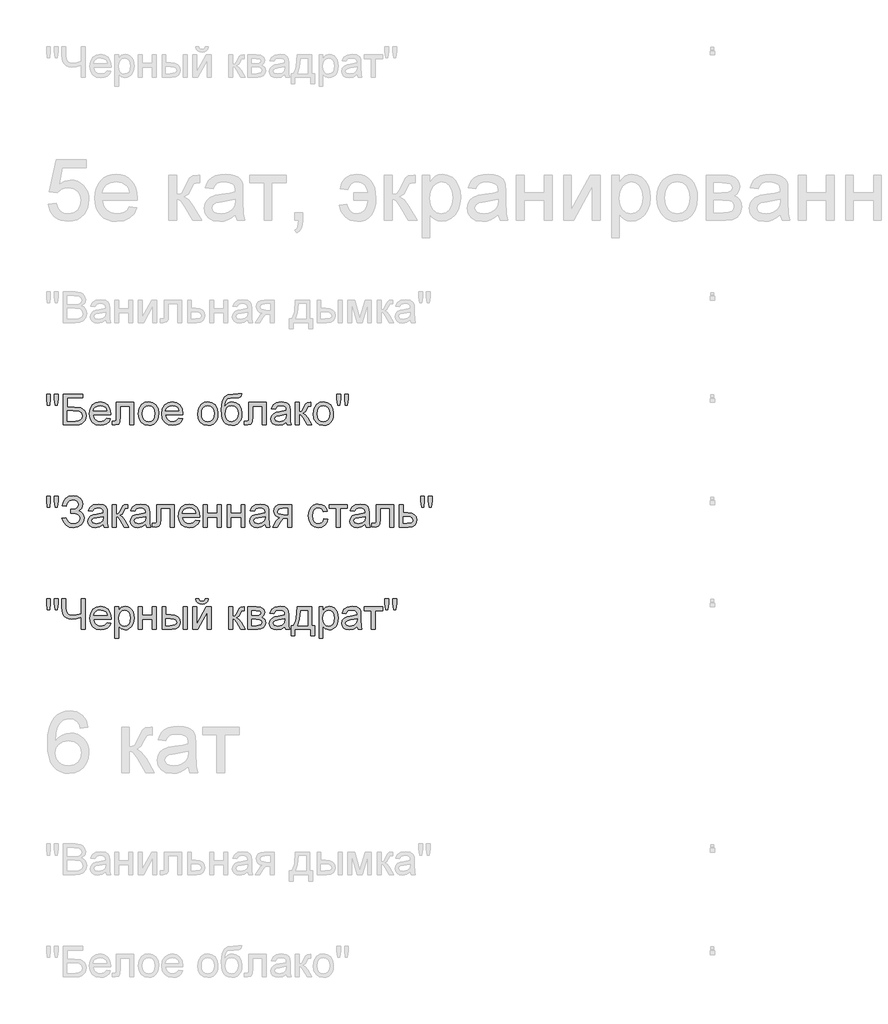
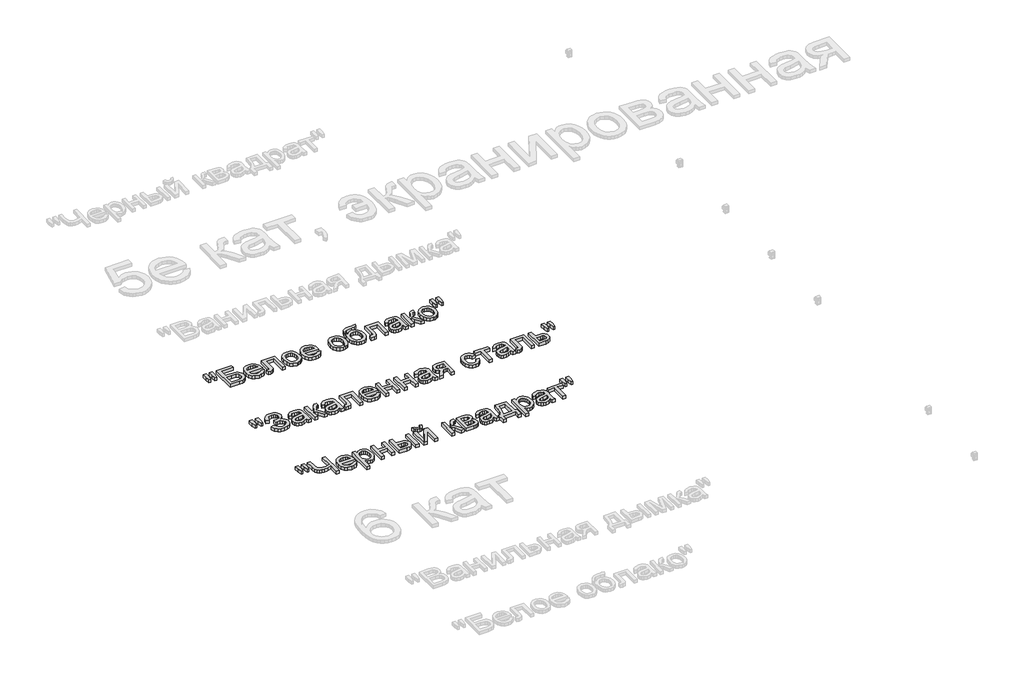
# One storey, part 74 of 168: 3 proxies.
"""IFC4 building model written with IfcOpenShell, lengths in millimetres."""

from ifc_helpers import new_model, si_unit, origin, origin_with_axes, place, context, project, spatial, polyline, outline, extrude, element, save

model = new_model("IFC4")

# Units and contexts
model_context = context("Model", 3, world=origin())
ifc_project = project(units=[si_unit("LENGTHUNIT", "METRE", prefix="MILLI")], contexts=[model_context])

# Site, building, storey
site = spatial("IfcSite", under=ifc_project)
building = spatial("IfcBuilding", under=site)
storey = spatial("IfcBuildingStorey", under=building, Name="Этаж 01", Elevation=0.0)

# Proxies
placement = place(None, origin())
element("IfcBuildingElementProxy", 1, Name="150", ObjectType="150", at=placement, inside=storey, context=model_context, shape_type="SweptSolid", body=[
    extrude(outline(polyline([(60180.1485789, -35570.3300622), (60175.550054, -35541.2305964), (60175.550054, -35516.1778325), (60194.3856121, -35516.1778325), (60194.3856121, -35541.2305964), (60190.2653338, -35570.3300622), (60180.1485789, -35570.3300622)])), origin_with_axes(), (0.0, 0.0, 1.0), 20.0),
    extrude(outline(polyline([(60217.7093306, -35570.3300622), (60213.2211703, -35541.2305964), (60213.2211703, -35516.1778325), (60232.0567284, -35516.1778325), (60232.0567284, -35541.2305964), (60227.6421445, -35570.3300622), (60217.7093306, -35570.3300622)])), origin_with_axes(), (0.0, 0.0, 1.0), 20.0),
    extrude(outline(polyline([(60257.9556209, -35516.1778325), (60352.1334117, -35516.1778325), (60352.1334117, -35535.0133907), (60276.791179, -35535.0133907), (60276.791179, -35579.7478413), (60312.0710624, -35579.7478413), (60343.157091, -35583.573814), (60353.5589544, -35589.101241), (60361.6615553, -35598.0315764), (60366.8762826, -35609.5278888), (60368.614525, -35622.7532465), (60363.6665122, -35644.2191609), (60348.8960501, -35660.5347274), (60335.6247071, -35665.2804052), (60315.4555767, -35666.8622977), (60257.9556209, -35666.8622977), (60257.9556209, -35516.1778325)]), holes=[polyline([(60276.791179, -35648.0267396), (60317.1478339, -35648.0267396), (60331.4124583, -35646.4724382), (60341.6119866, -35641.8095339), (60347.7372218, -35634.0380267), (60349.7789669, -35623.1579167), (60345.1068655, -35608.4058487), (60332.102237, -35600.533174), (60303.7201411, -35598.5833994), (60276.791179, -35598.5833994), (60276.791179, -35648.0267396)])]), origin_with_axes(), (0.0, 0.0, 1.0), 20.0),
    extrude(outline(polyline([(60469.6349209, -35633.900071), (60488.1025971, -35636.2545157), (60481.4485315, -35650.1696522), (60470.8305374, -35660.5715156), (60456.4877381, -35667.0554358), (60438.6592569, -35669.2167425), (60416.5587461, -35665.4873388), (60399.5534008, -35654.2991276), (60388.710079, -35636.3786759), (60385.0956384, -35612.4525506), (60388.7468672, -35587.7216835), (60399.7005536, -35569.2264162), (60416.4759726, -35557.6933157), (60437.5923991, -35553.8489488), (60458.0512366, -35557.6841186), (60474.3989927, -35569.189628), (60485.1181544, -35587.6481071), (60488.6912083, -35612.342186), (60488.5808437, -35617.4189576), (60403.9311966, -35617.4189576), (60407.1915508, -35631.518035), (60414.7653213, -35641.8831103), (60425.6960151, -35648.2566658), (60439.0271389, -35650.3811843), (60457.4948151, -35646.444847), (60469.6349209, -35633.900071)]), holes=[polyline([(60403.9311966, -35598.5833994), (60469.8556501, -35598.5833994), (60467.3080673, -35588.6321915), (60462.3140692, -35581.5136749), (60451.3327917, -35574.8917989), (60437.5188227, -35572.684507), (60424.8222954, -35574.445742), (60414.3238629, -35579.7294472), (60407.0260039, -35587.9654053), (60403.9311966, -35598.5833994)])]), origin_with_axes(), (0.0, 0.0, 1.0), 20.0),
    extrude(outline(polyline([(60516.9445455, -35556.2033936), (60601.7045572, -35556.2033936), (60601.7045572, -35666.7519331), (60582.868999, -35666.7519331), (60582.868999, -35575.0389517), (60535.7801036, -35575.0389517), (60535.7801036, -35627.830018), (60534.5109108, -35652.1838061), (60527.539547, -35662.4661079), (60511.0584336, -35666.8622977), (60495.7545426, -35665.9058045), (60495.7545426, -35648.0267396), (60504.1790403, -35648.0267396), (60512.6955084, -35646.8679113), (60516.0984169, -35643.1890913), (60516.9445455, -35626.7631603), (60516.9445455, -35556.2033936)])), origin_with_axes(), (0.0, 0.0, 1.0), 20.0),
    extrude(outline(polyline([(60625.2490049, -35611.5328457), (60629.323298, -35584.852204), (60641.5461773, -35566.0994193), (60656.6477332, -35556.9115664), (60674.7291332, -35553.8489488), (60694.516586, -35557.5783525), (60710.3217163, -35568.7665637), (60720.6821929, -35586.5306656), (60724.1356852, -35609.9877413), (60722.6089749, -35629.0164375), (60718.0288441, -35643.501791), (60710.5286499, -35654.3497114), (60700.2417496, -35662.4661079), (60688.0234688, -35667.5290839), (60674.7291332, -35669.2167425), (60654.7025571, -35665.5011344), (60638.915821, -35654.3543099), (60628.6657089, -35636.2177275), (60625.2490049, -35611.5328457)]), holes=[polyline([(60644.084563, -35611.4960575), (60646.2642638, -35628.5427894), (60652.8033663, -35640.6874938), (60662.6442097, -35647.9577617), (60674.7291332, -35650.3811843), (60686.7588745, -35647.9439661), (60696.5813237, -35640.6323115), (60703.1204262, -35628.3266587), (60705.300127, -35610.9074463), (60703.1066306, -35594.357355), (60696.5261414, -35582.3781975), (60686.6898966, -35575.1079296), (60674.7291332, -35572.684507), (60662.6442097, -35575.0987326), (60652.8033663, -35582.3414093), (60646.2642638, -35594.4585226), (60644.084563, -35611.4960575)])]), origin_with_axes(), (0.0, 0.0, 1.0), 20.0),
    extrude(outline(polyline([(60822.8016363, -35633.900071), (60841.2693124, -35636.2545157), (60834.6152469, -35650.1696522), (60823.9972528, -35660.5715156), (60809.6544535, -35667.0554358), (60791.8259723, -35669.2167425), (60769.7254614, -35665.4873388), (60752.7201162, -35654.2991276), (60741.8767944, -35636.3786759), (60738.2623538, -35612.4525506), (60741.9135826, -35587.7216835), (60752.867269, -35569.2264162), (60769.642688, -35557.6933157), (60790.7591145, -35553.8489488), (60811.217952, -35557.6841186), (60827.5657081, -35569.189628), (60838.2848698, -35587.6481071), (60841.8579236, -35612.342186), (60841.747559, -35617.4189576), (60757.0979119, -35617.4189576), (60760.3582661, -35631.518035), (60767.9320367, -35641.8831103), (60778.8627305, -35648.2566658), (60792.1938543, -35650.3811843), (60810.6615304, -35646.444847), (60822.8016363, -35633.900071)]), holes=[polyline([(60757.0979119, -35598.5833994), (60823.0223655, -35598.5833994), (60820.4747827, -35588.6321915), (60815.4807846, -35581.5136749), (60804.499507, -35574.8917989), (60790.6855381, -35572.684507), (60777.9890107, -35574.445742), (60767.4905783, -35579.7294472), (60760.1927192, -35587.9654053), (60757.0979119, -35598.5833994)])]), origin_with_axes(), (0.0, 0.0, 1.0), 20.0),
    extrude(outline(polyline([(60914.8457115, -35611.5328457), (60918.9200046, -35584.852204), (60931.1428839, -35566.0994193), (60946.2444398, -35556.9115664), (60964.3258398, -35553.8489488), (60984.1132926, -35557.5783525), (60999.9184229, -35568.7665637), (61010.2788995, -35586.5306656), (61013.7323918, -35609.9877413), (61012.2056815, -35629.0164375), (61007.6255507, -35643.501791), (61000.1253565, -35654.3497114), (60989.8384562, -35662.4661079), (60977.6201754, -35667.5290839), (60964.3258398, -35669.2167425), (60944.2992637, -35665.5011344), (60928.5125276, -35654.3543099), (60918.2624155, -35636.2177275), (60914.8457115, -35611.5328457)]), holes=[polyline([(60933.6812696, -35611.4960575), (60935.8609704, -35628.5427894), (60942.4000729, -35640.6874938), (60952.2409163, -35647.9577617), (60964.3258398, -35650.3811843), (60976.3555811, -35647.9439661), (60986.1780303, -35640.6323115), (60992.7171328, -35628.3266587), (60994.8968336, -35610.9074463), (60992.7033372, -35594.357355), (60986.122848, -35582.3781975), (60976.2866032, -35575.1079296), (60964.3258398, -35572.684507), (60952.2409163, -35575.0987326), (60942.4000729, -35582.3414093), (60935.8609704, -35594.4585226), (60933.6812696, -35611.4960575)])]), origin_with_axes(), (0.0, 0.0, 1.0), 20.0),
    extrude(outline(polyline([(61112.6190721, -35513.8233877), (61129.1001855, -35513.8233877), (61124.2441431, -35528.5202734), (61114.6424231, -35533.8361683), (61091.576222, -35535.0133907), (61060.5085875, -35539.3543982), (61053.3808738, -35545.0013868), (61048.5892108, -35553.2603376), (61044.560903, -35577.8716431), (61060.8764695, -35559.8454253), (61070.7954878, -35555.3480679), (61081.9009255, -35553.8489488), (61101.4998388, -35557.661126), (61117.401538, -35569.0976575), (61127.9413572, -35587.0365033), (61131.4546302, -35610.3556233), (61129.7117893, -35628.3358558), (61124.4832664, -35642.766027), (61107.9469707, -35662.3189551), (61096.6529935, -35667.4922957), (61081.9009255, -35669.2167425), (61064.9001788, -35666.995655), (61052.1576662, -35660.3323923), (61042.7812738, -35650.2064404), (61035.8788879, -35637.597285), (61031.6298508, -35618.6099755), (61030.2135052, -35589.3495614), (61033.786559, -35553.2097538), (61044.5057207, -35531.1690238), (61062.6377045, -35519.9256303), (61088.449225, -35516.1778325), (61109.4184987, -35515.7547682), (61112.6190721, -35513.8233877)]), holes=[polyline([(61112.6190721, -35609.7670121), (61110.577327, -35594.9459662), (61104.4520918, -35583.0771733), (61094.6112484, -35575.2826736), (61081.4226789, -35572.684507), (61067.6730893, -35575.4298264), (61057.473561, -35583.6657845), (61051.1551877, -35596.4910706), (61049.0490633, -35613.0043736), (61051.3759169, -35629.011839), (61058.3564778, -35640.7610702), (61068.7491442, -35647.9761558), (61081.3123143, -35650.3811843), (61093.9398638, -35647.5990768), (61103.937057, -35639.252754), (61110.4485683, -35626.3171033), (61112.6190721, -35609.7670121)])]), origin_with_axes(), (0.0, 0.0, 1.0), 20.0),
    extrude(outline(polyline([(61164.416857, -35556.2033936), (61249.1768687, -35556.2033936), (61249.1768687, -35666.7519331), (61230.3413105, -35666.7519331), (61230.3413105, -35575.0389517), (61183.2524152, -35575.0389517), (61183.2524152, -35627.830018), (61181.9832223, -35652.1838061), (61175.0118585, -35662.4661079), (61158.5307451, -35666.8622977), (61143.2268541, -35665.9058045), (61143.2268541, -35648.0267396), (61151.6513518, -35648.0267396), (61160.16782, -35646.8679113), (61163.5707284, -35643.1890913), (61164.416857, -35626.7631603), (61164.416857, -35556.2033936)])), origin_with_axes(), (0.0, 0.0, 1.0), 20.0),
    extrude(outline(polyline([(61348.063549, -35652.7356291), (61329.7982079, -35665.5011344), (61309.6198805, -35669.2167425), (61293.8791296, -35666.9818594), (61282.2678542, -35660.27721), (61275.1079508, -35650.0960758), (61272.7213164, -35637.4317381), (61276.3265599, -35622.5325173), (61285.7995213, -35611.7167867), (61298.9880908, -35605.5363691), (61315.2852632, -35602.7036778), (61347.9531844, -35596.2289547), (61348.063549, -35592.0350999), (61346.766765, -35583.6289963), (61342.8764129, -35578.1291605), (61334.1760037, -35574.0456704), (61322.0542919, -35572.684507), (61302.9980046, -35576.3081446), (61293.9113193, -35589.1656204), (61275.0757612, -35586.8111756), (61283.2243473, -35568.4170758), (61299.6318843, -35557.6381334), (61324.4823131, -35553.8489488), (61347.3093909, -35557.196675), (61360.2036548, -35565.6027786), (61365.9794022, -35578.3866779), (61366.8991071, -35594.8677913), (61366.8991071, -35618.3018744), (61367.8556003, -35651.0249778), (61371.6079967, -35666.8622977), (61352.7724385, -35666.8622977), (61348.063549, -35652.7356291)]), holes=[polyline([(61348.063549, -35615.0645128), (61317.6764962, -35620.8402601), (61301.4712943, -35623.8936807), (61294.1320485, -35628.8600876), (61291.5568745, -35636.1073629), (61297.167075, -35646.2976942), (61313.6297942, -35650.3811843), (61332.6860816, -35645.8746299), (61344.9733402, -35634.9669288), (61347.9531844, -35620.3988017), (61348.063549, -35615.0645128)])]), origin_with_axes(), (0.0, 0.0, 1.0), 20.0),
    extrude(outline(polyline([(61392.7979996, -35556.2033936), (61411.6335578, -35556.2033936), (61411.6335578, -35603.292289), (61424.2519102, -35599.9077746), (61434.5893943, -35580.1892997), (61443.1794388, -35563.1747574), (61450.7578079, -35557.6381334), (61464.5349887, -35556.2033936), (61468.1402322, -35556.2033936), (61468.1402322, -35575.1493163), (61463.0634607, -35575.0389517), (61453.8664108, -35577.0255145), (61447.3916877, -35589.4231377), (61439.7949245, -35602.8324365), (61429.1447407, -35609.3991301), (61441.0273292, -35616.7291788), (61452.6891884, -35632.1710256), (61472.8491218, -35666.8622977), (61451.4383896, -35666.8622977), (61431.6831265, -35632.9067896), (61421.7503126, -35618.5409977), (61411.6335578, -35615.0645128), (61411.6335578, -35666.8622977), (61392.7979996, -35666.8622977), (61392.7979996, -35556.2033936)])), origin_with_axes(), (0.0, 0.0, 1.0), 20.0),
    extrude(outline(polyline([(61479.9124561, -35611.5328457), (61483.9867492, -35584.852204), (61496.2096285, -35566.0994193), (61511.3111844, -35556.9115664), (61529.3925844, -35553.8489488), (61549.1800372, -35557.5783525), (61564.9851674, -35568.7665637), (61575.3456441, -35586.5306656), (61578.7991364, -35609.9877413), (61577.2724261, -35629.0164375), (61572.6922952, -35643.501791), (61565.1921011, -35654.3497114), (61554.9052008, -35662.4661079), (61542.68692, -35667.5290839), (61529.3925844, -35669.2167425), (61509.3660083, -35665.5011344), (61493.5792722, -35654.3543099), (61483.3291601, -35636.2177275), (61479.9124561, -35611.5328457)]), holes=[polyline([(61498.7480142, -35611.4960575), (61500.927715, -35628.5427894), (61507.4668175, -35640.6874938), (61517.3076609, -35647.9577617), (61529.3925844, -35650.3811843), (61541.4223257, -35647.9439661), (61551.2447749, -35640.6323115), (61557.7838774, -35628.3266587), (61559.9635782, -35610.9074463), (61557.7700818, -35594.357355), (61551.1895926, -35582.3781975), (61541.3533478, -35575.1079296), (61529.3925844, -35572.684507), (61517.3076609, -35575.0987326), (61507.4668175, -35582.3414093), (61500.927715, -35594.4585226), (61498.7480142, -35611.4960575)])]), origin_with_axes(), (0.0, 0.0, 1.0), 20.0),
    extrude(outline(polyline([(61599.8787747, -35570.3300622), (61595.2802498, -35541.2305964), (61595.2802498, -35516.1778325), (61614.1158079, -35516.1778325), (61614.1158079, -35541.2305964), (61609.9955296, -35570.3300622), (61599.8787747, -35570.3300622)])), origin_with_axes(), (0.0, 0.0, 1.0), 20.0),
    extrude(outline(polyline([(61637.4395264, -35570.3300622), (61632.9513661, -35541.2305964), (61632.9513661, -35516.1778325), (61651.7869242, -35516.1778325), (61651.7869242, -35541.2305964), (61647.3723403, -35570.3300622), (61637.4395264, -35570.3300622)])), origin_with_axes(), (0.0, 0.0, 1.0), 20.0),
])
element("IfcBuildingElementProxy", 2, Name="150", ObjectType="150", at=placement, inside=storey, context=model_context, shape_type="SweptSolid", body=[
    extrude(outline(polyline([(60180.1485789, -36070.3300622), (60175.550054, -36041.2305964), (60175.550054, -36016.1778325), (60194.3856121, -36016.1778325), (60194.3856121, -36041.2305964), (60190.2653338, -36070.3300622), (60180.1485789, -36070.3300622)])), origin_with_axes(), (0.0, 0.0, 1.0), 20.0),
    extrude(outline(polyline([(60217.7093306, -36070.3300622), (60213.2211703, -36041.2305964), (60213.2211703, -36016.1778325), (60232.0567284, -36016.1778325), (60232.0567284, -36041.2305964), (60227.6421445, -36070.3300622), (60217.7093306, -36070.3300622)])), origin_with_axes(), (0.0, 0.0, 1.0), 20.0),
    extrude(outline(polyline([(60250.8922866, -36124.4822919), (60269.7278447, -36119.7734024), (60281.2977335, -36140.172459), (60292.2284273, -36147.829003), (60306.2217387, -36150.3811843), (60320.398991, -36148.4635995), (60331.2193202, -36142.7108448), (60338.0757209, -36134.2449603), (60340.3611878, -36124.1879863), (60337.8641888, -36113.6527657), (60330.3731916, -36105.517975), (60318.5779752, -36100.3170433), (60303.1683181, -36098.5833994), (60293.2722924, -36098.5833994), (60293.2722924, -36079.7478413), (60314.591054, -36078.221131), (60327.6324708, -36070.4220327), (60333.2978535, -36056.1666054), (60331.4124583, -36047.2960508), (60325.7562726, -36039.6670979), (60316.8811195, -36034.4109839), (60305.3388219, -36032.6589459), (60286.1169876, -36038.0484171), (60275.117316, -36052.3406326), (60272.0822895, -36065.6211727), (60253.2467313, -36060.9122831), (60259.0983543, -36040.3108914), (60269.7002536, -36025.5956116), (60285.0524291, -36016.7664437), (60305.1548809, -36013.8233877), (60324.5468605, -36016.8814068), (60339.4598769, -36026.0554641), (60348.965028, -36039.3222085), (60352.1334117, -36054.6582892), (60347.2037929, -36073.3007093), (60332.4149367, -36087.2158458), (60342.8903765, -36092.0396984), (60351.5080123, -36100.1836861), (60357.2745625, -36110.948833), (60359.196746, -36123.6361633), (60355.508729, -36141.4738415), (60344.444678, -36156.1385376), (60327.2921799, -36165.9471913), (60305.3388219, -36169.2167425), (60286.2365493, -36166.4208393), (60270.7947025, -36158.0331298), (60259.0132816, -36144.053614), (60250.8922866, -36124.4822919)])), origin_with_axes(), (0.0, 0.0, 1.0), 20.0),
    extrude(outline(polyline([(60453.3745367, -36152.7356291), (60435.1091957, -36165.5011344), (60414.9308682, -36169.2167425), (60399.1901174, -36166.9818594), (60387.5788419, -36160.27721), (60380.4189386, -36150.0960758), (60378.0323041, -36137.4317381), (60381.6375477, -36122.5325173), (60391.110509, -36111.7167867), (60404.2990786, -36105.5363691), (60420.596251, -36102.7036778), (60453.2641721, -36096.2289547), (60453.3745367, -36092.0350999), (60452.0777527, -36083.6289963), (60448.1874006, -36078.1291605), (60439.4869914, -36074.0456704), (60427.3652797, -36072.684507), (60408.3089923, -36076.3081446), (60399.222307, -36089.1656204), (60380.3867489, -36086.8111756), (60388.5353351, -36068.4170758), (60404.9428721, -36057.6381334), (60429.7933008, -36053.8489488), (60452.6203786, -36057.196675), (60465.5146426, -36065.6027786), (60471.2903899, -36078.3866779), (60472.2100949, -36094.8677913), (60472.2100949, -36118.3018744), (60473.1665881, -36151.0249778), (60476.9189844, -36166.8622977), (60458.0834263, -36166.8622977), (60453.3745367, -36152.7356291)]), holes=[polyline([(60453.3745367, -36115.0645128), (60422.9874839, -36120.8402601), (60406.782282, -36123.8936807), (60399.4430362, -36128.8600876), (60396.8678623, -36136.1073629), (60402.4780627, -36146.2976942), (60418.940782, -36150.3811843), (60437.9970693, -36145.8746299), (60450.284328, -36134.9669288), (60453.2641721, -36120.3988017), (60453.3745367, -36115.0645128)])]), origin_with_axes(), (0.0, 0.0, 1.0), 20.0),
    extrude(outline(polyline([(60498.1089873, -36056.2033936), (60516.9445455, -36056.2033936), (60516.9445455, -36103.292289), (60529.5628979, -36099.9077746), (60539.900382, -36080.1892997), (60548.4904266, -36063.1747574), (60556.0687957, -36057.6381334), (60569.8459764, -36056.2033936), (60573.4512199, -36056.2033936), (60573.4512199, -36075.1493163), (60568.3744484, -36075.0389517), (60559.1773985, -36077.0255145), (60552.7026754, -36089.4231377), (60545.1059122, -36102.8324365), (60534.4557285, -36109.3991301), (60546.3383169, -36116.7291788), (60558.0001762, -36132.1710256), (60578.1601095, -36166.8622977), (60556.7493774, -36166.8622977), (60536.9941142, -36132.9067896), (60527.0613004, -36118.5409977), (60516.9445455, -36115.0645128), (60516.9445455, -36166.8622977), (60498.1089873, -36166.8622977), (60498.1089873, -36056.2033936)])), origin_with_axes(), (0.0, 0.0, 1.0), 20.0),
    extrude(outline(polyline([(60660.5656764, -36152.7356291), (60642.3003353, -36165.5011344), (60622.1220079, -36169.2167425), (60606.381257, -36166.9818594), (60594.7699816, -36160.27721), (60587.6100782, -36150.0960758), (60585.2234438, -36137.4317381), (60588.8286873, -36122.5325173), (60598.3016487, -36111.7167867), (60611.4902183, -36105.5363691), (60627.7873906, -36102.7036778), (60660.4553118, -36096.2289547), (60660.5656764, -36092.0350999), (60659.2688924, -36083.6289963), (60655.3785403, -36078.1291605), (60646.6781311, -36074.0456704), (60634.5564193, -36072.684507), (60615.500132, -36076.3081446), (60606.4134467, -36089.1656204), (60587.5778886, -36086.8111756), (60595.7264748, -36068.4170758), (60612.1340117, -36057.6381334), (60636.9844405, -36053.8489488), (60659.8115183, -36057.196675), (60672.7057822, -36065.6027786), (60678.4815296, -36078.3866779), (60679.4012346, -36094.8677913), (60679.4012346, -36118.3018744), (60680.3577277, -36151.0249778), (60684.1101241, -36166.8622977), (60665.2745659, -36166.8622977), (60660.5656764, -36152.7356291)]), holes=[polyline([(60660.5656764, -36115.0645128), (60630.1786236, -36120.8402601), (60613.9734217, -36123.8936807), (60606.6341759, -36128.8600876), (60604.0590019, -36136.1073629), (60609.6692024, -36146.2976942), (60626.1319217, -36150.3811843), (60645.188209, -36145.8746299), (60657.4754676, -36134.9669288), (60660.4553118, -36120.3988017), (60660.5656764, -36115.0645128)])]), origin_with_axes(), (0.0, 0.0, 1.0), 20.0),
    extrude(outline(polyline([(60714.7179061, -36056.2033936), (60799.4779178, -36056.2033936), (60799.4779178, -36166.7519331), (60780.6423596, -36166.7519331), (60780.6423596, -36075.0389517), (60733.5534643, -36075.0389517), (60733.5534643, -36127.830018), (60732.2842714, -36152.1838061), (60725.3129076, -36162.4661079), (60708.8317942, -36166.8622977), (60693.5279032, -36165.9058045), (60693.5279032, -36148.0267396), (60701.9524009, -36148.0267396), (60710.4688691, -36146.8679113), (60713.8717775, -36143.1890913), (60714.7179061, -36126.7631603), (60714.7179061, -36056.2033936)])), origin_with_axes(), (0.0, 0.0, 1.0), 20.0),
    extrude(outline(polyline([(60905.2072032, -36133.900071), (60923.6748794, -36136.2545157), (60917.0208138, -36150.1696522), (60906.4028197, -36160.5715156), (60892.0600204, -36167.0554358), (60874.2315392, -36169.2167425), (60852.1310283, -36165.4873388), (60835.1256831, -36154.2991276), (60824.2823613, -36136.3786759), (60820.6679207, -36112.4525506), (60824.3191495, -36087.7216835), (60835.2728359, -36069.2264162), (60852.0482549, -36057.6933157), (60873.1646814, -36053.8489488), (60893.6235189, -36057.6841186), (60909.971275, -36069.189628), (60920.6904367, -36087.6481071), (60924.2634906, -36112.342186), (60924.153126, -36117.4189576), (60839.5034789, -36117.4189576), (60842.763833, -36131.518035), (60850.3376036, -36141.8831103), (60861.2682974, -36148.2566658), (60874.5994212, -36150.3811843), (60893.0670974, -36146.444847), (60905.2072032, -36133.900071)]), holes=[polyline([(60839.5034789, -36098.5833994), (60905.4279324, -36098.5833994), (60902.8803496, -36088.6321915), (60897.8863515, -36081.5136749), (60886.9050739, -36074.8917989), (60873.091105, -36072.684507), (60860.3945777, -36074.445742), (60849.8961452, -36079.7294472), (60842.5982861, -36087.9654053), (60839.5034789, -36098.5833994)])]), origin_with_axes(), (0.0, 0.0, 1.0), 20.0),
    extrude(outline(polyline([(60943.0990487, -36056.2033936), (60961.9346069, -36056.2033936), (60961.9346069, -36098.5833994), (61011.377947, -36098.5833994), (61011.377947, -36056.2033936), (61030.2135052, -36056.2033936), (61030.2135052, -36166.8622977), (61011.377947, -36166.8622977), (61011.377947, -36117.4189576), (60961.9346069, -36117.4189576), (60961.9346069, -36166.8622977), (60943.0990487, -36166.8622977), (60943.0990487, -36056.2033936)])), origin_with_axes(), (0.0, 0.0, 1.0), 20.0),
    extrude(outline(polyline([(61058.4668424, -36056.2033936), (61077.3024005, -36056.2033936), (61077.3024005, -36098.5833994), (61126.7457407, -36098.5833994), (61126.7457407, -36056.2033936), (61145.5812988, -36056.2033936), (61145.5812988, -36166.8622977), (61126.7457407, -36166.8622977), (61126.7457407, -36117.4189576), (61077.3024005, -36117.4189576), (61077.3024005, -36166.8622977), (61058.4668424, -36166.8622977), (61058.4668424, -36056.2033936)])), origin_with_axes(), (0.0, 0.0, 1.0), 20.0),
    extrude(outline(polyline([(61244.4679792, -36152.7356291), (61226.2026381, -36165.5011344), (61206.0243107, -36169.2167425), (61190.2835598, -36166.9818594), (61178.6722843, -36160.27721), (61171.512381, -36150.0960758), (61169.1257465, -36137.4317381), (61172.7309901, -36122.5325173), (61182.2039515, -36111.7167867), (61195.392521, -36105.5363691), (61211.6896934, -36102.7036778), (61244.3576146, -36096.2289547), (61244.4679792, -36092.0350999), (61243.1711951, -36083.6289963), (61239.280843, -36078.1291605), (61230.5804338, -36074.0456704), (61218.4587221, -36072.684507), (61199.4024347, -36076.3081446), (61190.3157495, -36089.1656204), (61171.4801913, -36086.8111756), (61179.6287775, -36068.4170758), (61196.0363145, -36057.6381334), (61220.8867433, -36053.8489488), (61243.7138211, -36057.196675), (61256.608085, -36065.6027786), (61262.3838323, -36078.3866779), (61263.3035373, -36094.8677913), (61263.3035373, -36118.3018744), (61264.2600305, -36151.0249778), (61268.0124268, -36166.8622977), (61249.1768687, -36166.8622977), (61244.4679792, -36152.7356291)]), holes=[polyline([(61244.4679792, -36115.0645128), (61214.0809264, -36120.8402601), (61197.8757245, -36123.8936807), (61190.5364787, -36128.8600876), (61187.9613047, -36136.1073629), (61193.5715051, -36146.2976942), (61210.0342244, -36150.3811843), (61229.0905118, -36145.8746299), (61241.3777704, -36134.9669288), (61244.3576146, -36120.3988017), (61244.4679792, -36115.0645128)])]), origin_with_axes(), (0.0, 0.0, 1.0), 20.0),
    extrude(outline(polyline([(61373.9624415, -36056.2033936), (61373.9624415, -36166.8622977), (61355.1268833, -36166.8622977), (61355.1268833, -36124.4822919), (61344.8629756, -36124.4822919), (61330.8834598, -36126.8735249), (61317.7500726, -36142.949968), (61302.7404872, -36166.8622977), (61280.9618731, -36166.8622977), (61299.8710076, -36136.6223977), (61308.2219289, -36125.7698789), (61315.9106626, -36120.9506247), (61303.0347928, -36117.0050903), (61293.9848957, -36109.5094947), (61288.6322127, -36099.5398926), (61286.847985, -36088.172339), (61289.2852032, -36075.278075), (61296.5968579, -36065.0693497), (61308.5254316, -36058.4198826), (61324.8134069, -36056.2033936), (61373.9624415, -36056.2033936)]), holes=[polyline([(61355.1268833, -36075.0389517), (61330.2948486, -36075.0389517), (61317.4695626, -36076.1288021), (61310.1900976, -36079.3983534), (61305.6835431, -36089.6070787), (61307.3436107, -36096.7853762), (61312.3238132, -36101.7655787), (61335.8498668, -36105.6467337), (61355.1268833, -36105.6467337), (61355.1268833, -36075.0389517)])]), origin_with_axes(), (0.0, 0.0, 1.0), 20.0),
    extrude(outline(polyline([(61531.710241, -36126.8367367), (61550.5457991, -36129.1911814), (61545.2942837, -36145.9436078), (61535.4258491, -36158.6033469), (61521.8693976, -36166.5633936), (61505.5538311, -36169.2167425), (61485.518058, -36165.5149299), (61469.8508835, -36154.4094922), (61459.7387272, -36136.387873), (61456.3680084, -36111.9375159), (61457.8073467, -36095.1758924), (61462.1253616, -36080.6491522), (61469.391031, -36068.918315), (61479.6733328, -36060.5444011), (61491.974387, -36055.5228119), (61505.2963137, -36053.8489488), (61521.2118085, -36056.1482113), (61533.9359271, -36063.0459987), (61543.0639991, -36074.174429), (61548.1913544, -36089.1656204), (61529.3557962, -36091.5200651), (61520.6185988, -36077.4117906), (61505.4434665, -36072.684507), (61493.271171, -36075.0113606), (61483.6096701, -36081.9919214), (61477.3050924, -36094.0032686), (61475.2035665, -36111.4224811), (61477.2591072, -36129.0762183), (61483.4257291, -36141.1289522), (61492.9124861, -36148.0681263), (61504.9284317, -36150.3811843), (61514.6819031, -36148.9372475), (61522.678738, -36144.605437), (61528.4958721, -36137.2753883), (61531.710241, -36126.8367367)])), origin_with_axes(), (0.0, 0.0, 1.0), 20.0),
    extrude(outline(polyline([(61557.6091334, -36056.2033936), (61647.0780347, -36056.2033936), (61647.0780347, -36075.0389517), (61611.7613631, -36075.0389517), (61611.7613631, -36166.8622977), (61592.925805, -36166.8622977), (61592.925805, -36075.0389517), (61557.6091334, -36075.0389517), (61557.6091334, -36056.2033936)])), origin_with_axes(), (0.0, 0.0, 1.0), 20.0),
    extrude(outline(polyline([(61734.1924911, -36152.7356291), (61715.9271501, -36165.5011344), (61695.7488226, -36169.2167425), (61680.0080718, -36166.9818594), (61668.3967963, -36160.27721), (61661.236893, -36150.0960758), (61658.8502585, -36137.4317381), (61662.4555021, -36122.5325173), (61671.9284634, -36111.7167867), (61685.117033, -36105.5363691), (61701.4142054, -36102.7036778), (61734.0821265, -36096.2289547), (61734.1924911, -36092.0350999), (61732.8957071, -36083.6289963), (61729.005355, -36078.1291605), (61720.3049458, -36074.0456704), (61708.1832341, -36072.684507), (61689.1269467, -36076.3081446), (61680.0402614, -36089.1656204), (61661.2047033, -36086.8111756), (61669.3532895, -36068.4170758), (61685.7608265, -36057.6381334), (61710.6112552, -36053.8489488), (61733.438333, -36057.196675), (61746.332597, -36065.6027786), (61752.1083443, -36078.3866779), (61753.0280493, -36094.8677913), (61753.0280493, -36118.3018744), (61753.9845425, -36151.0249778), (61757.7369388, -36166.8622977), (61738.9013807, -36166.8622977), (61734.1924911, -36152.7356291)]), holes=[polyline([(61734.1924911, -36115.0645128), (61703.8054383, -36120.8402601), (61687.6002364, -36123.8936807), (61680.2609906, -36128.8600876), (61677.6858167, -36136.1073629), (61683.2960171, -36146.2976942), (61699.7587364, -36150.3811843), (61718.8150237, -36145.8746299), (61731.1022824, -36134.9669288), (61734.0821265, -36120.3988017), (61734.1924911, -36115.0645128)])]), origin_with_axes(), (0.0, 0.0, 1.0), 20.0),
    extrude(outline(polyline([(61788.3447208, -36056.2033936), (61873.1047325, -36056.2033936), (61873.1047325, -36166.7519331), (61854.2691744, -36166.7519331), (61854.2691744, -36075.0389517), (61807.180279, -36075.0389517), (61807.180279, -36127.830018), (61805.9110861, -36152.1838061), (61798.9397223, -36162.4661079), (61782.4586089, -36166.8622977), (61767.1547179, -36165.9058045), (61767.1547179, -36148.0267396), (61775.5792156, -36148.0267396), (61784.0956838, -36146.8679113), (61787.4985922, -36143.1890913), (61788.3447208, -36126.7631603), (61788.3447208, -36056.2033936)])), origin_with_axes(), (0.0, 0.0, 1.0), 20.0),
    extrude(outline(polyline([(61901.3580697, -36056.2033936), (61920.1936279, -36056.2033936), (61920.1936279, -36096.2289547), (61941.8986656, -36096.2289547), (61960.7158297, -36098.587998), (61974.6401632, -36105.6651278), (61983.2486019, -36116.8901272), (61986.1180814, -36131.692779), (61983.6762647, -36145.1710556), (61976.3508145, -36156.5432078), (61963.6542871, -36164.2825252), (61945.099239, -36166.8622977), (61901.3580697, -36166.8622977), (61901.3580697, -36056.2033936)]), holes=[polyline([(61920.1936279, -36148.0267396), (61937.7783873, -36148.0267396), (61960.4951005, -36144.0720081), (61965.5856676, -36139.0090322), (61967.2825233, -36131.7295672), (61962.260934, -36120.1412843), (61954.1905228, -36116.3337057), (61940.0224674, -36115.0645128), (61920.1936279, -36115.0645128), (61920.1936279, -36148.0267396)])]), origin_with_axes(), (0.0, 0.0, 1.0), 20.0),
    extrude(outline(polyline([(62009.5521645, -36070.3300622), (62004.9536396, -36041.2305964), (62004.9536396, -36016.1778325), (62023.7891977, -36016.1778325), (62023.7891977, -36041.2305964), (62019.6689194, -36070.3300622), (62009.5521645, -36070.3300622)])), origin_with_axes(), (0.0, 0.0, 1.0), 20.0),
    extrude(outline(polyline([(62047.1129162, -36070.3300622), (62042.6247559, -36041.2305964), (62042.6247559, -36016.1778325), (62061.460314, -36016.1778325), (62061.460314, -36041.2305964), (62057.0457301, -36070.3300622), (62047.1129162, -36070.3300622)])), origin_with_axes(), (0.0, 0.0, 1.0), 20.0),
])
element("IfcBuildingElementProxy", 3, Name="150", ObjectType="150", at=placement, inside=storey, context=model_context, shape_type="SweptSolid", body=[
    extrude(outline(polyline([(60180.1485789, -36570.3300622), (60175.550054, -36541.2305964), (60175.550054, -36516.1778325), (60194.3856121, -36516.1778325), (60194.3856121, -36541.2305964), (60190.2653338, -36570.3300622), (60180.1485789, -36570.3300622)])), origin_with_axes(), (0.0, 0.0, 1.0), 20.0),
    extrude(outline(polyline([(60217.7093306, -36570.3300622), (60213.2211703, -36541.2305964), (60213.2211703, -36516.1778325), (60232.0567284, -36516.1778325), (60232.0567284, -36541.2305964), (60227.6421445, -36570.3300622), (60217.7093306, -36570.3300622)])), origin_with_axes(), (0.0, 0.0, 1.0), 20.0),
    extrude(outline(polyline([(60363.9056355, -36666.8622977), (60345.0700773, -36666.8622977), (60345.0700773, -36606.5296505), (60320.0908899, -36614.6966308), (60298.4226404, -36617.4189576), (60283.7395502, -36615.556555), (60270.886673, -36609.9693472), (60260.926268, -36601.5172583), (60254.9205944, -36591.0602126), (60250.8922866, -36561.0594359), (60250.8922866, -36516.1778325), (60269.7278447, -36516.1778325), (60269.7278447, -36558.5210502), (60271.990319, -36578.8879171), (60278.7777418, -36590.8394834), (60288.7381468, -36596.6474204), (60300.5195677, -36598.5833994), (60322.2521966, -36596.2473488), (60345.0700773, -36589.2391968), (60345.0700773, -36516.1778325), (60363.9056355, -36516.1778325), (60363.9056355, -36666.8622977)])), origin_with_axes(), (0.0, 0.0, 1.0), 20.0),
    extrude(outline(polyline([(60471.9893657, -36633.900071), (60490.4570418, -36636.2545157), (60483.8029762, -36650.1696522), (60473.1849822, -36660.5715156), (60458.8421829, -36667.0554358), (60441.0137017, -36669.2167425), (60418.9131908, -36665.4873388), (60401.9078456, -36654.2991276), (60391.0645238, -36636.3786759), (60387.4500832, -36612.4525506), (60391.101312, -36587.7216835), (60402.0549984, -36569.2264162), (60418.8304174, -36557.6933157), (60439.9468439, -36553.8489488), (60460.4056814, -36557.6841186), (60476.7534375, -36569.189628), (60487.4725992, -36587.6481071), (60491.045653, -36612.342186), (60490.9352884, -36617.4189576), (60406.2856413, -36617.4189576), (60409.5459955, -36631.518035), (60417.1197661, -36641.8831103), (60428.0504599, -36648.2566658), (60441.3815837, -36650.3811843), (60459.8492598, -36646.444847), (60471.9893657, -36633.900071)]), holes=[polyline([(60406.2856413, -36598.5833994), (60472.2100949, -36598.5833994), (60469.6625121, -36588.6321915), (60464.668514, -36581.5136749), (60453.6872364, -36574.8917989), (60439.8732675, -36572.684507), (60427.1767401, -36574.445742), (60416.6783077, -36579.7294472), (60409.3804486, -36587.9654053), (60406.2856413, -36598.5833994)])]), origin_with_axes(), (0.0, 0.0, 1.0), 20.0),
    extrude(outline(polyline([(60509.8812112, -36709.2423036), (60509.8812112, -36556.2033936), (60528.7167693, -36556.2033936), (60528.7167693, -36574.6710697), (60541.739792, -36559.054479), (60559.3245513, -36553.8489488), (60572.0624654, -36555.6699647), (60583.2000928, -36561.1330123), (60592.268384, -36569.9069979), (60598.7982894, -36581.6608277), (60604.0590019, -36610.6867171), (60602.5736784, -36626.7953499), (60598.1177077, -36641.2025286), (60590.8336442, -36653.1770875), (60580.8640422, -36661.9878613), (60569.2527667, -36667.4095222), (60557.043683, -36669.2167425), (60540.6545401, -36664.3790943), (60528.7167693, -36652.1470179), (60528.7167693, -36709.2423036), (60509.8812112, -36709.2423036)]), holes=[polyline([(60528.7167693, -36612.4157624), (60530.7539159, -36629.301546), (60536.8653555, -36641.1105581), (60545.8830629, -36648.0635278), (60556.6390128, -36650.3811843), (60567.5697066, -36647.9807543), (60576.8173402, -36640.7794643), (60583.1219179, -36628.5381909), (60585.2234438, -36611.0178109), (60583.1725017, -36594.2239978), (60577.0196753, -36582.2494388), (60568.0157635, -36575.0757399), (60557.411565, -36572.684507), (60546.7659797, -36575.2274913), (60537.4171785, -36582.8564441), (60530.8918716, -36595.3322423), (60528.7167693, -36612.4157624)])]), origin_with_axes(), (0.0, 0.0, 1.0), 20.0),
    extrude(outline(polyline([(60625.2490049, -36556.2033936), (60644.084563, -36556.2033936), (60644.084563, -36598.5833994), (60693.5279032, -36598.5833994), (60693.5279032, -36556.2033936), (60712.3634613, -36556.2033936), (60712.3634613, -36666.8622977), (60693.5279032, -36666.8622977), (60693.5279032, -36617.4189576), (60644.084563, -36617.4189576), (60644.084563, -36666.8622977), (60625.2490049, -36666.8622977), (60625.2490049, -36556.2033936)])), origin_with_axes(), (0.0, 0.0, 1.0), 20.0),
    extrude(outline(polyline([(60844.2123684, -36556.2033936), (60863.0479266, -36556.2033936), (60863.0479266, -36666.8622977), (60844.2123684, -36666.8622977), (60844.2123684, -36556.2033936)])), origin_with_axes(), (0.0, 0.0, 1.0), 20.0),
    extrude(outline(polyline([(60740.6167986, -36556.2033936), (60759.4523567, -36556.2033936), (60759.4523567, -36596.2289547), (60782.739287, -36596.2289547), (60802.8670307, -36598.587998), (60817.780047, -36605.6651278), (60827.0092866, -36616.8901272), (60830.0856998, -36631.692779), (60827.5059273, -36645.1710556), (60819.7666098, -36656.5432078), (60806.3619096, -36664.2825252), (60786.785989, -36666.8622977), (60740.6167986, -36666.8622977), (60740.6167986, -36556.2033936)]), holes=[polyline([(60759.4523567, -36648.0267396), (60778.8029497, -36648.0267396), (60803.7821371, -36644.0720081), (60809.3831405, -36639.0090322), (60811.2501416, -36631.7295672), (60805.7135176, -36620.1412843), (60796.8337659, -36616.3337057), (60781.267759, -36615.0645128), (60759.4523567, -36615.0645128), (60759.4523567, -36648.0267396)])]), origin_with_axes(), (0.0, 0.0, 1.0), 20.0),
    extrude(outline(polyline([(60891.3012638, -36556.2033936), (60910.1368219, -36556.2033936), (60910.1368219, -36640.5955233), (60956.4163769, -36556.2033936), (60980.770165, -36556.2033936), (60980.770165, -36666.8622977), (60961.9346069, -36666.8622977), (60961.9346069, -36582.9852028), (60915.9493575, -36666.8622977), (60891.3012638, -36666.8622977), (60891.3012638, -36556.2033936)])), origin_with_axes(), (0.0, 0.0, 1.0), 20.0),
    extrude(outline(polyline([(60952.5168278, -36516.1778325), (60966.6434964, -36516.1778325), (60963.6038714, -36528.2397634), (60957.5016288, -36537.1287121), (60948.6126801, -36542.6055553), (60937.2129368, -36544.4311697), (60924.8429047, -36542.6193509), (60915.2503817, -36537.1838944), (60908.6928851, -36528.3087413), (60905.4279324, -36516.1778325), (60919.554601, -36516.1778325), (60924.8521017, -36526.7912281), (60935.5206796, -36530.3045011), (60947.219327, -36526.9015927), (60952.5168278, -36516.1778325)])), origin_with_axes(), (0.0, 0.0, 1.0), 20.0),
    extrude(outline(polyline([(61067.8846215, -36556.2033936), (61086.7201796, -36556.2033936), (61086.7201796, -36603.292289), (61099.3385321, -36599.9077746), (61109.6760161, -36580.1892997), (61118.2660607, -36563.1747574), (61125.8444298, -36557.6381334), (61139.6216105, -36556.2033936), (61143.2268541, -36556.2033936), (61143.2268541, -36575.1493163), (61138.1500825, -36575.0389517), (61128.9530327, -36577.0255145), (61122.4783096, -36589.4231377), (61114.8815464, -36602.8324365), (61104.2313626, -36609.3991301), (61116.113951, -36616.7291788), (61127.7758103, -36632.1710256), (61147.9357436, -36666.8622977), (61126.5250115, -36666.8622977), (61106.7697484, -36632.9067896), (61096.8369345, -36618.5409977), (61086.7201796, -36615.0645128), (61086.7201796, -36666.8622977), (61067.8846215, -36666.8622977), (61067.8846215, -36556.2033936)])), origin_with_axes(), (0.0, 0.0, 1.0), 20.0),
    extrude(outline(polyline([(61159.7079675, -36556.2033936), (61201.2050565, -36556.2033936), (61223.9585579, -36558.7233853), (61236.7608514, -36567.9572233), (61242.1135344, -36584.0520606), (61238.8761728, -36597.1302655), (61229.1273, -36606.4560741), (61241.7824406, -36616.6647995), (61246.8224239, -36634.4151058), (61243.6310476, -36648.7717006), (61236.0434815, -36658.8792584), (61224.0321343, -36664.8665379), (61207.569415, -36666.8622977), (61159.7079675, -36666.8622977), (61159.7079675, -36556.2033936)]), holes=[polyline([(61178.5435256, -36598.5833994), (61197.1583546, -36598.5833994), (61212.5174279, -36597.6269062), (61219.9854324, -36593.8009335), (61223.2779762, -36586.884752), (61221.8340394, -36581.2653545), (61217.5022289, -36577.6509139), (61197.7469658, -36575.0389517), (61178.5435256, -36575.0389517), (61178.5435256, -36598.5833994)]), polyline([(61178.5435256, -36648.0267396), (61201.6465149, -36648.0267396), (61222.137542, -36644.6238311), (61226.377382, -36639.9839195), (61227.9868658, -36632.8700014), (61224.7678983, -36623.8017102), (61216.3801888, -36618.5226036), (61199.8071049, -36617.4189576), (61178.5435256, -36617.4189576), (61178.5435256, -36648.0267396)])]), origin_with_axes(), (0.0, 0.0, 1.0), 20.0),
    extrude(outline(polyline([(61341.0002147, -36652.7356291), (61322.7348736, -36665.5011344), (61302.5565462, -36669.2167425), (61286.8157953, -36666.9818594), (61275.2045198, -36660.27721), (61268.0446165, -36650.0960758), (61265.6579821, -36637.4317381), (61269.2632256, -36622.5325173), (61278.736187, -36611.7167867), (61291.9247565, -36605.5363691), (61308.2219289, -36602.7036778), (61340.8898501, -36596.2289547), (61341.0002147, -36592.0350999), (61339.7034307, -36583.6289963), (61335.8130786, -36578.1291605), (61327.1126694, -36574.0456704), (61314.9909576, -36572.684507), (61295.9346703, -36576.3081446), (61286.847985, -36589.1656204), (61268.0124268, -36586.8111756), (61276.161013, -36568.4170758), (61292.56855, -36557.6381334), (61317.4189788, -36553.8489488), (61340.2460566, -36557.196675), (61353.1403205, -36565.6027786), (61358.9160679, -36578.3866779), (61359.8357728, -36594.8677913), (61359.8357728, -36618.3018744), (61360.792266, -36651.0249778), (61364.5446624, -36666.8622977), (61345.7091042, -36666.8622977), (61341.0002147, -36652.7356291)]), holes=[polyline([(61341.0002147, -36615.0645128), (61310.6131619, -36620.8402601), (61294.40796, -36623.8936807), (61287.0687142, -36628.8600876), (61284.4935402, -36636.1073629), (61290.1037407, -36646.2976942), (61306.5664599, -36650.3811843), (61325.6227473, -36645.8746299), (61337.9100059, -36634.9669288), (61340.8898501, -36620.3988017), (61341.0002147, -36615.0645128)])]), origin_with_axes(), (0.0, 0.0, 1.0), 20.0),
    extrude(outline(polyline([(61402.2157787, -36556.2033936), (61472.8491218, -36556.2033936), (61472.8491218, -36648.0267396), (61486.9757904, -36648.0267396), (61486.9757904, -36697.4700797), (61468.1402322, -36697.4700797), (61468.1402322, -36666.8622977), (61390.4435548, -36666.8622977), (61390.4435548, -36697.4700797), (61371.6079967, -36697.4700797), (61371.6079967, -36648.0267396), (61383.3802205, -36648.0267396), (61391.9380754, -36632.5619002), (61397.9299534, -36612.1030628), (61402.2157787, -36556.2033936)]), holes=[polyline([(61418.6968921, -36575.0389517), (61414.2823081, -36617.9523865), (61404.5702235, -36648.0267396), (61454.0135636, -36648.0267396), (61454.0135636, -36575.0389517), (61418.6968921, -36575.0389517)])]), origin_with_axes(), (0.0, 0.0, 1.0), 20.0),
    extrude(outline(polyline([(61508.1657933, -36709.2423036), (61508.1657933, -36556.2033936), (61527.0013514, -36556.2033936), (61527.0013514, -36574.6710697), (61540.0243741, -36559.054479), (61557.6091334, -36553.8489488), (61570.3470475, -36555.6699647), (61581.4846749, -36561.1330123), (61590.5529661, -36569.9069979), (61597.0828715, -36581.6608277), (61602.3435841, -36610.6867171), (61600.8582605, -36626.7953499), (61596.4022898, -36641.2025286), (61589.1182263, -36653.1770875), (61579.1486243, -36661.9878613), (61567.5373488, -36667.4095222), (61555.3282651, -36669.2167425), (61538.9391222, -36664.3790943), (61527.0013514, -36652.1470179), (61527.0013514, -36709.2423036), (61508.1657933, -36709.2423036)]), holes=[polyline([(61527.0013514, -36612.4157624), (61529.038498, -36629.301546), (61535.1499376, -36641.1105581), (61544.167645, -36648.0635278), (61554.9235949, -36650.3811843), (61565.8542887, -36647.9807543), (61575.1019223, -36640.7794643), (61581.4065, -36628.5381909), (61583.5080259, -36611.0178109), (61581.4570838, -36594.2239978), (61575.3042574, -36582.2494388), (61566.3003456, -36575.0757399), (61555.6961471, -36572.684507), (61545.0505618, -36575.2274913), (61535.7017606, -36582.8564441), (61529.1764537, -36595.3322423), (61527.0013514, -36612.4157624)])]), origin_with_axes(), (0.0, 0.0, 1.0), 20.0),
    extrude(outline(polyline([(61694.1669301, -36652.7356291), (61675.901589, -36665.5011344), (61655.7232616, -36669.2167425), (61639.9825107, -36666.9818594), (61628.3712352, -36660.27721), (61621.2113319, -36650.0960758), (61618.8246974, -36637.4317381), (61622.429941, -36622.5325173), (61631.9029024, -36611.7167867), (61645.0914719, -36605.5363691), (61661.3886443, -36602.7036778), (61694.0565655, -36596.2289547), (61694.1669301, -36592.0350999), (61692.870146, -36583.6289963), (61688.9797939, -36578.1291605), (61680.2793847, -36574.0456704), (61668.157673, -36572.684507), (61649.1013856, -36576.3081446), (61640.0147004, -36589.1656204), (61621.1791422, -36586.8111756), (61629.3277284, -36568.4170758), (61645.7352654, -36557.6381334), (61670.5856942, -36553.8489488), (61693.412772, -36557.196675), (61706.3070359, -36565.6027786), (61712.0827832, -36578.3866779), (61713.0024882, -36594.8677913), (61713.0024882, -36618.3018744), (61713.9589814, -36651.0249778), (61717.7113777, -36666.8622977), (61698.8758196, -36666.8622977), (61694.1669301, -36652.7356291)]), holes=[polyline([(61694.1669301, -36615.0645128), (61663.7798773, -36620.8402601), (61647.5746754, -36623.8936807), (61640.2354296, -36628.8600876), (61637.6602556, -36636.1073629), (61643.270456, -36646.2976942), (61659.7331753, -36650.3811843), (61678.7894627, -36645.8746299), (61691.0767213, -36634.9669288), (61694.0565655, -36620.3988017), (61694.1669301, -36615.0645128)])]), origin_with_axes(), (0.0, 0.0, 1.0), 20.0),
    extrude(outline(polyline([(61729.4836016, -36556.2033936), (61818.9525028, -36556.2033936), (61818.9525028, -36575.0389517), (61783.6358313, -36575.0389517), (61783.6358313, -36666.8622977), (61764.8002731, -36666.8622977), (61764.8002731, -36575.0389517), (61729.4836016, -36575.0389517), (61729.4836016, -36556.2033936)])), origin_with_axes(), (0.0, 0.0, 1.0), 20.0),
    extrude(outline(polyline([(61835.3232516, -36570.3300622), (61830.7247267, -36541.2305964), (61830.7247267, -36516.1778325), (61849.5602848, -36516.1778325), (61849.5602848, -36541.2305964), (61845.4400065, -36570.3300622), (61835.3232516, -36570.3300622)])), origin_with_axes(), (0.0, 0.0, 1.0), 20.0),
    extrude(outline(polyline([(61872.8840033, -36570.3300622), (61868.395843, -36541.2305964), (61868.395843, -36516.1778325), (61887.2314011, -36516.1778325), (61887.2314011, -36541.2305964), (61882.8168172, -36570.3300622), (61872.8840033, -36570.3300622)])), origin_with_axes(), (0.0, 0.0, 1.0), 20.0),
])

save(model, "model.ifc")
